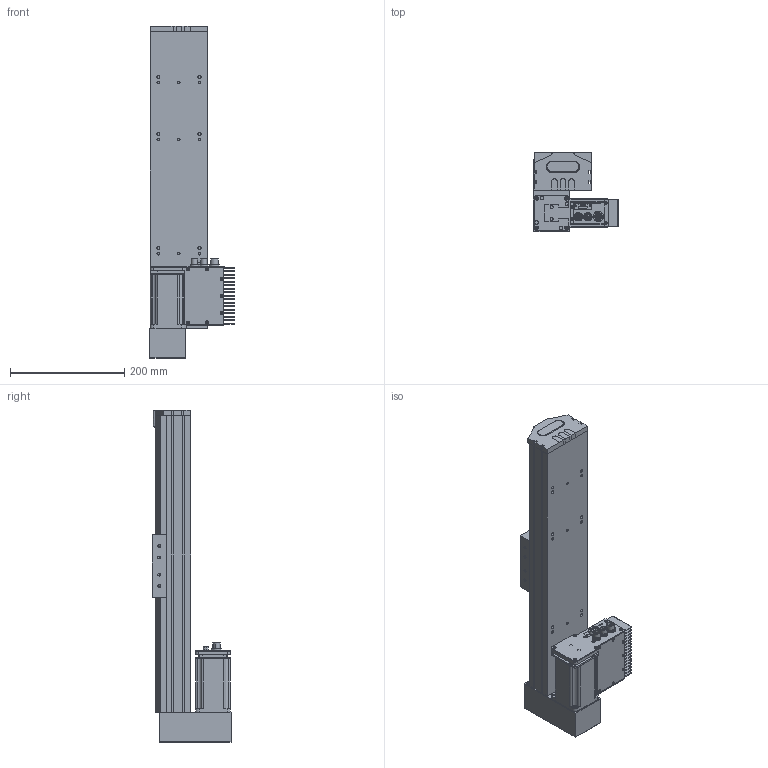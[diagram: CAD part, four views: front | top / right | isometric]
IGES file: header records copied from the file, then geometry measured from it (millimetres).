
Start section: SolidWorks IGES file using analytic representation for surfaces
Global section: file name: C:\Documents and Settings\1EDPI\Mes documents\yanize\S 10 TSH BM\S 10 TSH BM S300.IGS; native system: SolidWorks 2010; preprocessor: SolidWorks 2010; author: 1EDPI; date: 120906.153848; units: millimetre
Bounding box: 149.38 x 138.75 x 582 mm (x, y, z)
Surface area: 571323 mm2 (no closed solid volume)
Topology: 0 solids, 0 shells, 1961 faces, 26116 edges, 26084 vertices
Faces by surface type: revolution 1037, bspline 924
